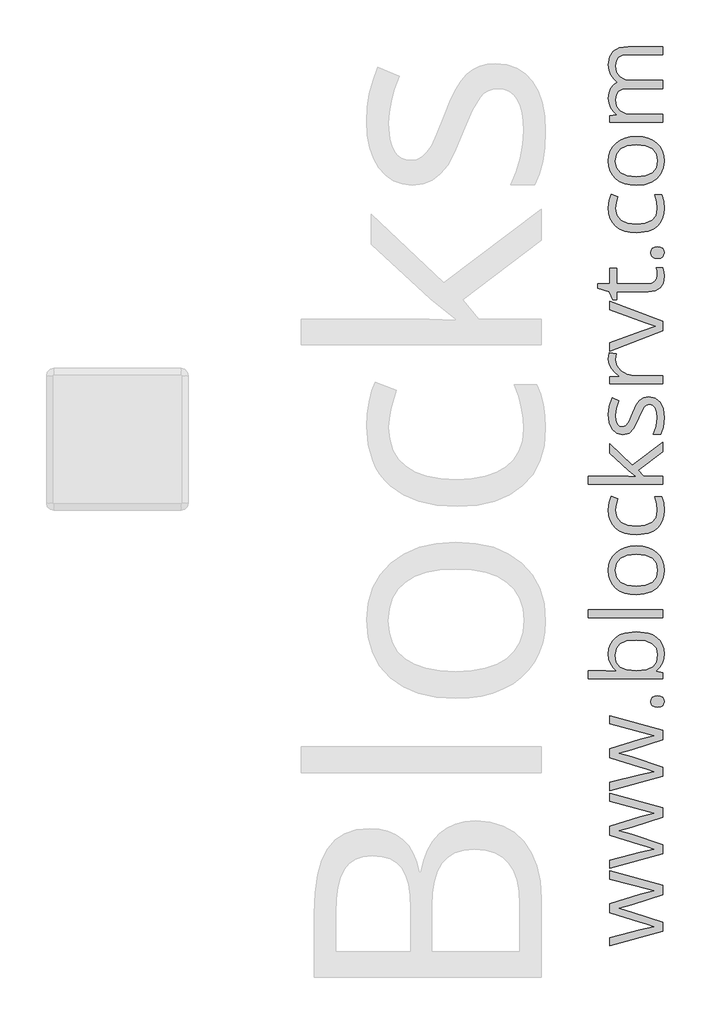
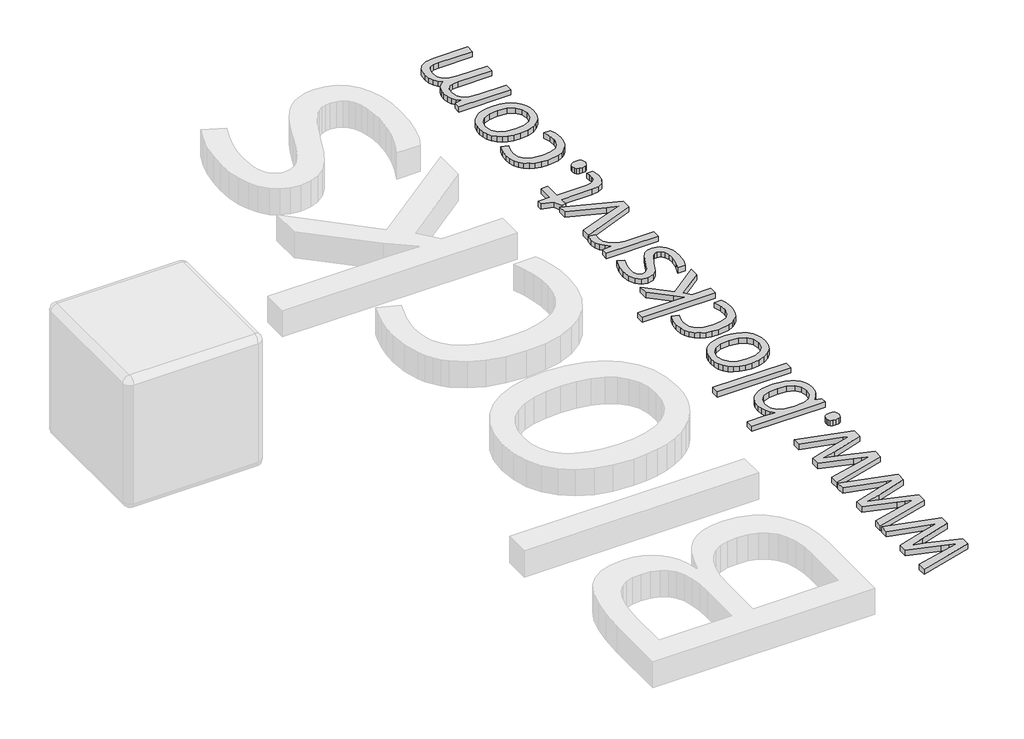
# One storey, part 12 of 12: 1 proxy.
"""IFC4 building model written with IfcOpenShell, lengths in millimetres."""

from ifc_helpers import new_model, si_unit, origin, origin_with_axes, place, context, project, spatial, polyline, outline, extrude, element, save

model = new_model("IFC4")

# Units and contexts
model_context = context("Model", 3, world=origin())
ifc_project = project(units=[si_unit("LENGTHUNIT", "METRE", prefix="MILLI")], contexts=[model_context])

# Site, building, storey
site = spatial("IfcSite", under=ifc_project)
building = spatial("IfcBuilding", under=site)
storey = spatial("IfcBuildingStorey", under=building, Name="PORTOBELLO - SHOWROOM", Elevation=0.0)

# Proxy
placement = place(None, origin())
element("IfcBuildingElementProxy", 1, Name="25mm OpenSans", ObjectType="25mm OpenSans", at=placement, inside=storey, context=model_context, shape_type="SweptSolid", body=[
    extrude(outline(polyline([(49940.5449856, 19203.3703802), (49830.7333423, 19168.8902738), (49785.0097229, 19156.672323), (49831.108126, 19143.2550642), (49940.5449856, 19107.7255632), (49940.5449856, 19074.8195486), (49753.4529298, 19023.4741727), (49753.4529298, 19053.3069605), (49860.7910003, 19081.0409591), (49910.4873276, 19091.9846451), (49885.3018585, 19099.4053636), (49860.7910003, 19106.7511254), (49753.4529298, 19141.2312319), (49753.4529298, 19172.1134142), (49860.865957, 19205.7689963), (49910.1875006, 19218.8114714), (49891.223442, 19223.9085306), (49753.4529298, 19259.6629018), (49753.4529298, 19289.1958626), (49940.5449856, 19237.1758759), (49940.5449856, 19203.3703802)])), origin_with_axes(), (0.0, 0.0, 1.0), 20.0),
    extrude(outline(polyline([(49940.5449856, 19476.8126157), (49830.7333423, 19442.3325092), (49785.0097229, 19430.1145585), (49831.108126, 19416.6972996), (49940.5449856, 19381.1677987), (49940.5449856, 19348.261784), (49753.4529298, 19296.9164081), (49753.4529298, 19326.7491959), (49860.7910003, 19354.4831945), (49910.4873276, 19365.4268805), (49885.3018585, 19372.8475991), (49860.7910003, 19380.1933609), (49753.4529298, 19414.6734673), (49753.4529298, 19445.5556496), (49860.865957, 19479.2112318), (49910.1875006, 19492.2537068), (49891.223442, 19497.350766), (49753.4529298, 19533.1051373), (49753.4529298, 19562.638098), (49940.5449856, 19510.6181113), (49940.5449856, 19476.8126157)])), origin_with_axes(), (0.0, 0.0, 1.0), 20.0),
    extrude(outline(polyline([(49940.5449856, 19750.2548511), (49830.7333423, 19715.7747446), (49785.0097229, 19703.5567939), (49831.108126, 19690.1395351), (49940.5449856, 19654.6100341), (49940.5449856, 19621.7040195), (49753.4529298, 19570.3586436), (49753.4529298, 19600.1914313), (49860.7910003, 19627.92543), (49910.4873276, 19638.8691159), (49885.3018585, 19646.2898345), (49860.7910003, 19653.6355963), (49753.4529298, 19688.1157027), (49753.4529298, 19718.997885), (49860.865957, 19752.6534672), (49910.1875006, 19765.6959422), (49891.223442, 19770.7930014), (49753.4529298, 19806.5473727), (49753.4529298, 19836.0803334), (49940.5449856, 19784.0603467), (49940.5449856, 19750.2548511)])), origin_with_axes(), (0.0, 0.0, 1.0), 20.0),
    extrude(outline(polyline([(49921.4310136, 19865.2385104), (49911.0213945, 19866.540884), (49903.4788712, 19870.4480047), (49898.8971396, 19876.79122), (49897.3698958, 19885.401877), (49898.8971396, 19894.265513), (49903.4788712, 19900.9179249), (49911.0213945, 19905.0780247), (49921.4310136, 19906.4647246), (49931.6345016, 19905.0499159), (49939.1582857, 19900.8054897), (49943.7962348, 19894.1249691), (49945.3422178, 19885.401877), (49939.7579397, 19870.972702), (49932.3840691, 19866.6720583), (49921.4310136, 19865.2385104)])), origin_with_axes(), (0.0, 0.0, 1.0), 20.0),
    extrude(outline(polyline([(49748.6556976, 20053.604831), (49750.2555558, 20071.1892168), (49755.0551304, 20086.6888679), (49763.0544214, 20100.1037843), (49774.2534288, 20111.433966), (49788.3757495, 20120.4358036), (49805.1449807, 20126.8656876), (49846.6241739, 20132.0095948), (49888.2439111, 20126.8188396), (49905.1326045, 20120.3303957), (49919.4071812, 20111.2465742), (49930.7537597, 20099.8625173), (49938.8584587, 20086.4733672), (49943.721278, 20071.0791241), (49945.3422178, 20053.6797877), (49943.6275821, 20036.036842), (49938.4836749, 20019.9867272), (49929.7793219, 20005.979184), (49917.3833489, 19994.4639528), (49917.3833489, 19992.3651637), (49940.5449856, 19986.3686234), (49940.5449856, 19966.0553433), (49676.6972146, 19966.0553433), (49676.6972146, 19994.388996), (49739.2861034, 19994.388996), (49777.064307, 19993.0397745), (49764.6355404, 20005.5950306), (49755.7578499, 20019.1996813), (49750.4312357, 20035.2029481), (49748.6556976, 20053.604831)]), holes=[polyline([(49772.6418586, 20049.6321231), (49776.8769151, 20024.3623277), (49789.5820848, 20007.3190359), (49812.3127202, 19997.621506), (49846.6241739, 19994.388996), (49881.0761716, 19997.7152019), (49904.0785252, 20007.6938197), (49917.0366739, 20024.9994601), (49921.3560568, 20050.3067339), (49916.5119766, 20073.3840442), (49901.9797361, 20089.6965076), (49878.3777285, 20099.3940376), (49846.3243469, 20102.6265475), (49813.8774424, 20099.3940376), (49790.893828, 20089.6965076), (49777.2048509, 20073.2153915), (49772.6418586, 20049.6321231)])]), origin_with_axes(), (0.0, 0.0, 1.0), 20.0),
    extrude(outline(polyline([(49940.5449856, 20209.2900072), (49940.5449856, 20180.9563546), (49676.6972146, 20180.9563546), (49676.6972146, 20209.2900072), (49940.5449856, 20209.2900072)])), origin_with_axes(), (0.0, 0.0, 1.0), 20.0),
    extrude(outline(polyline([(49846.8490442, 20434.2352234), (49868.7762369, 20432.7946483), (49888.1595848, 20428.472923), (49904.9990878, 20421.2700475), (49919.2947461, 20411.1860218), (49930.690515, 20398.5675209), (49938.8303499, 20383.7612198), (49943.7142508, 20366.7671184), (49945.3422178, 20347.5852168), (49942.3533173, 20323.8895132), (49933.3866157, 20303.023427), (49918.835636, 20285.7927434), (49899.0939011, 20273.0032474), (49874.8641307, 20265.0765708), (49846.8490442, 20262.4343452), (49824.9312211, 20263.8632083), (49805.575982, 20268.1497976), (49788.7833269, 20275.2941132), (49774.5532558, 20285.2961549), (49763.2230741, 20297.8373567), (49755.1300871, 20312.5991523), (49750.274295, 20329.5815416), (49748.6556976, 20348.7845248), (49750.3117733, 20367.3808268), (49755.2800006, 20383.9673508), (49763.5603795, 20398.5440969), (49775.1529098, 20411.1110651), (49789.5703728, 20421.2278843), (49806.3255495, 20428.4541838), (49825.41844, 20432.7899635), (49846.8490442, 20434.2352234)]), holes=[polyline([(49846.6241739, 20291.8923492), (49878.780621, 20295.4715342), (49902.2420848, 20306.209089), (49916.5775638, 20323.8801436), (49921.3560568, 20348.2598276), (49916.596303, 20372.6582507), (49902.3170415, 20390.3855228), (49878.874317, 20401.1792953), (49846.6241739, 20404.7772194), (49814.7019667, 20401.1792953), (49791.493482, 20390.3855228), (49777.3547644, 20372.5645548), (49772.6418586, 20347.8850438), (49777.2891773, 20323.5522078), (49791.2311334, 20306.0216972), (49814.3740309, 20295.4246862), (49846.6241739, 20291.8923492)])]), origin_with_axes(), (0.0, 0.0, 1.0), 20.0),
    extrude(outline(polyline([(49945.3422178, 20559.6378714), (49943.756414, 20540.2943443), (49938.9990026, 20523.2651069), (49931.0699835, 20508.5501593), (49919.9693569, 20496.1495015), (49905.9688408, 20486.3114276), (49889.3401536, 20479.284232), (49848.1982657, 20473.6624755), (49825.7510606, 20475.0889963), (49806.0069833, 20479.3685584), (49788.966034, 20486.5011619), (49774.6282125, 20496.4868069), (49763.2652373, 20509.1099926), (49755.1488263, 20524.1552184), (49750.2789798, 20541.6224842), (49748.6556976, 20561.5117902), (49751.4290975, 20588.75857), (49757.950335, 20610.0837662), (49781.4117987, 20601.3138261), (49775.1529098, 20580.5882839), (49772.6418586, 20560.7622227), (49777.3313405, 20535.54396), (49791.3997861, 20517.5309153), (49814.8471954, 20506.7230885), (49847.6735685, 20503.1204795), (49879.1366656, 20506.6340773), (49902.3170415, 20517.1748707), (49916.596303, 20534.6116854), (49921.3560568, 20558.8133471), (49918.8262664, 20582.7807689), (49911.2368951, 20607.3103664), (49935.8976669, 20607.3103664), (49942.9810801, 20585.9102134), (49945.3422178, 20559.6378714)])), origin_with_axes(), (0.0, 0.0, 1.0), 20.0),
    extrude(outline(polyline([(49846.6991307, 20678.8940656), (49818.8152185, 20701.7558753), (49753.4529298, 20761.7212778), (49753.4529298, 20795.077033), (49833.2069151, 20719.8204528), (49940.5449856, 20800.3240057), (49940.5449856, 20766.218683), (49854.194806, 20700.631524), (49872.1844267, 20679.6436331), (49940.5449856, 20679.6436331), (49940.5449856, 20651.6098075), (49676.6972146, 20651.6098075), (49676.6972146, 20679.6436331), (49817.6908672, 20679.6436331), (49846.6991307, 20678.8940656)])), origin_with_axes(), (0.0, 0.0, 1.0), 20.0),
    extrude(outline(polyline([(49890.0990907, 20960.5815439), (49913.5886633, 20955.6812461), (49930.9879996, 20940.9803529), (49941.7536632, 20917.4345629), (49945.3422178, 20885.9995745), (49942.3814261, 20852.7000369), (49933.4990508, 20827.6082638), (49906.9643602, 20827.6082638), (49917.495784, 20856.7664408), (49921.3560568, 20886.749142), (49919.5758339, 20906.5658337), (49914.2351653, 20921.1917701), (49905.2403549, 20930.2146893), (49892.4977068, 20933.222329), (49882.2098925, 20930.8330825), (49873.5336483, 20923.665343), (49854.9443735, 20886.449315), (49837.7043203, 20849.0458952), (49821.0264427, 20832.5179312), (49798.6518519, 20827.0835666), (49777.9263097, 20831.7683636), (49762.0729564, 20845.8227548), (49752.0100123, 20868.0474321), (49748.6556976, 20897.2430875), (49751.7664028, 20927.2820063), (49761.0985186, 20956.6837927), (49784.2601553, 20946.4896743), (49775.5464328, 20919.4302864), (49772.6418586, 20895.0693416), (49774.2440592, 20877.2483736), (49779.050661, 20864.4120296), (49786.6868802, 20856.6540057), (49796.7779331, 20854.0679977), (49809.7829298, 20857.9282705), (49819.9770482, 20870.4085699), (49834.0314394, 20903.464498), (49846.3618253, 20931.5451716), (49858.7671679, 20948.7758553), (49872.8215591, 20957.6301217), (49890.0990907, 20960.5815439)])), origin_with_axes(), (0.0, 0.0, 1.0), 20.0),
    extrude(outline(polyline([(49748.6556976, 21093.0301267), (49750.5296164, 21115.6670661), (49775.1903882, 21111.6943582), (49772.6418586, 21091.0062943), (49777.3360253, 21069.6717285), (49791.4185252, 21051.6914773), (49812.5094817, 21039.464157), (49838.2290176, 21035.3883835), (49940.5449856, 21035.3883835), (49940.5449856, 21007.0547308), (49753.4529298, 21007.0547308), (49753.4529298, 21030.4412378), (49787.0335552, 21033.6643782), (49770.7117222, 21046.6506357), (49758.6249458, 21060.4239391), (49751.1480096, 21075.9962045), (49748.6556976, 21093.0301267)])), origin_with_axes(), (0.0, 0.0, 1.0), 20.0),
    extrude(outline(polyline([(49940.5449856, 21192.6476516), (49753.4529298, 21120.6891686), (49753.4529298, 21151.4963941), (49864.3889244, 21192.3478246), (49914.909776, 21208.5384832), (49877.4313995, 21221.9557421), (49753.4529298, 21267.3795344), (49753.4529298, 21298.18676), (49940.5449856, 21226.228277), (49940.5449856, 21192.6476516)])), origin_with_axes(), (0.0, 0.0, 1.0), 20.0),
    extrude(outline(polyline([(49921.3560568, 21389.5590421), (49920.2317055, 21404.2505657), (49917.9080462, 21415.4940786), (49940.0952451, 21415.4940786), (49943.8430827, 21401.7769928), (49945.3422178, 21385.5113774), (49941.781772, 21361.5064772), (49931.1004347, 21344.3601199), (49913.2982058, 21334.0723055), (49888.3750854, 21330.6430341), (49777.4390908, 21330.6430341), (49777.4390908, 21303.5086895), (49763.422178, 21303.5086895), (49751.2791839, 21330.4931206), (49710.27784, 21342.5611578), (49710.27784, 21359.0516435), (49753.4529298, 21359.0516435), (49753.4529298, 21414.1448571), (49777.4390908, 21414.1448571), (49777.4390908, 21359.0516435), (49886.6510801, 21359.0516435), (49901.4831476, 21361.0848455), (49912.3987248, 21367.1844512), (49919.1167238, 21376.8445028), (49921.3560568, 21389.5590421)])), origin_with_axes(), (0.0, 0.0, 1.0), 20.0),
    extrude(outline(polyline([(49921.4310136, 21448.3251365), (49911.0213945, 21449.6275101), (49903.4788712, 21453.5346308), (49898.8971396, 21459.8778461), (49897.3698958, 21468.4885031), (49898.8971396, 21477.3521392), (49903.4788712, 21484.004551), (49911.0213945, 21488.1646508), (49921.4310136, 21489.5513507), (49931.6345016, 21488.136542), (49939.1582857, 21483.8921159), (49943.7962348, 21477.2115952), (49945.3422178, 21468.4885031), (49939.7579397, 21454.0593281), (49932.3840691, 21449.7586844), (49921.4310136, 21448.3251365)])), origin_with_axes(), (0.0, 0.0, 1.0), 20.0),
    extrude(outline(polyline([(49945.3422178, 21624.6234199), (49943.756414, 21605.2798928), (49938.9990026, 21588.2506554), (49931.0699835, 21573.5357078), (49919.9693569, 21561.13505), (49905.9688408, 21551.2969761), (49889.3401536, 21544.2697805), (49848.1982657, 21538.648024), (49825.7510606, 21540.0745447), (49806.0069833, 21544.3541069), (49788.966034, 21551.4867104), (49774.6282125, 21561.4723554), (49763.2652373, 21574.0955411), (49755.1488263, 21589.1407669), (49750.2789798, 21606.6080327), (49748.6556976, 21626.4973387), (49751.4290975, 21653.7441185), (49757.950335, 21675.0693147), (49781.4117987, 21666.2993746), (49775.1529098, 21645.5738324), (49772.6418586, 21625.7477712), (49777.3313405, 21600.5295085), (49791.3997861, 21582.5164638), (49814.8471954, 21571.708637), (49847.6735685, 21568.106028), (49879.1366656, 21571.6196258), (49902.3170415, 21582.1604192), (49916.596303, 21599.5972339), (49921.3560568, 21623.7988956), (49918.8262664, 21647.7663174), (49911.2368951, 21672.2959149), (49935.8976669, 21672.2959149), (49942.9810801, 21650.8957618), (49945.3422178, 21624.6234199)])), origin_with_axes(), (0.0, 0.0, 1.0), 20.0),
    extrude(outline(polyline([(49846.8490442, 21878.2021157), (49868.7762369, 21876.7615406), (49888.1595848, 21872.4398153), (49904.9990878, 21865.2369398), (49919.2947461, 21855.1529141), (49930.690515, 21842.5344132), (49938.8303499, 21827.7281121), (49943.7142508, 21810.7340107), (49945.3422178, 21791.5521091), (49942.3533173, 21767.8564055), (49933.3866157, 21746.9903194), (49918.835636, 21729.7596357), (49899.0939011, 21716.9701397), (49874.8641307, 21709.0434631), (49846.8490442, 21706.4012375), (49824.9312211, 21707.8301006), (49805.575982, 21712.11669), (49788.7833269, 21719.2610055), (49774.5532558, 21729.2630472), (49763.2230741, 21741.804249), (49755.1300871, 21756.5660446), (49750.274295, 21773.548434), (49748.6556976, 21792.7514171), (49750.3117733, 21811.3477191), (49755.2800006, 21827.9342431), (49763.5603795, 21842.5109892), (49775.1529098, 21855.0779574), (49789.5703728, 21865.1947766), (49806.3255495, 21872.4210761), (49825.41844, 21876.7568558), (49846.8490442, 21878.2021157)]), holes=[polyline([(49846.6241739, 21735.8592415), (49878.780621, 21739.4384265), (49902.2420848, 21750.1759814), (49916.5775638, 21767.8470359), (49921.3560568, 21792.2267199), (49916.596303, 21816.625143), (49902.3170415, 21834.3524151), (49878.874317, 21845.1461876), (49846.6241739, 21848.7441117), (49814.7019667, 21845.1461876), (49791.493482, 21834.3524151), (49777.3547644, 21816.5314471), (49772.6418586, 21791.8519361), (49777.2891773, 21767.5191001), (49791.2311334, 21749.9885895), (49814.3740309, 21739.3915785), (49846.6241739, 21735.8592415)])]), origin_with_axes(), (0.0, 0.0, 1.0), 20.0),
    extrude(outline(polyline([(49940.5449856, 22167.2353558), (49817.765824, 22167.2353558), (49798.0240891, 22164.8367397), (49783.9228499, 22157.6408914), (49775.4621064, 22145.3854623), (49772.6418586, 22127.8081036), (49776.4740226, 22104.7401629), (49787.9705146, 22088.6057218), (49807.4311616, 22079.1049533), (49835.1557907, 22075.9380305), (49940.5449856, 22075.9380305), (49940.5449856, 22047.529421), (49817.765824, 22047.529421), (49798.0240891, 22045.1308049), (49783.9228499, 22037.9349566), (49775.4621064, 22025.6420491), (49772.6418586, 22007.9522554), (49776.6707841, 21984.7718795), (49788.7575605, 21968.7498735), (49810.0078, 21959.4177577), (49841.5271147, 21956.3070525), (49940.5449856, 21956.3070525), (49940.5449856, 21927.9733998), (49753.4529298, 21927.9733998), (49753.4529298, 21951.0600798), (49777.4390908, 21955.6324417), (49765.3616839, 21966.7166716), (49756.263808, 21979.7310378), (49750.5577252, 21995.2564553), (49748.6556976, 22012.5246173), (49750.6233124, 22032.6223968), (49756.5261567, 22048.916121), (49766.3642305, 22061.40579), (49780.1375339, 22070.0914037), (49767.113798, 22081.7190701), (49757.1258107, 22095.7640917), (49750.7732259, 22112.8073834), (49748.6556976, 22132.0806386), (49752.7595798, 22159.936442), (49765.0712265, 22179.7906119), (49786.415162, 22191.6806269), (49817.6159105, 22195.6439652), (49940.5449856, 22195.6439652), (49940.5449856, 22167.2353558)])), origin_with_axes(), (0.0, 0.0, 1.0), 20.0),
])

save(model, "model.ifc")
